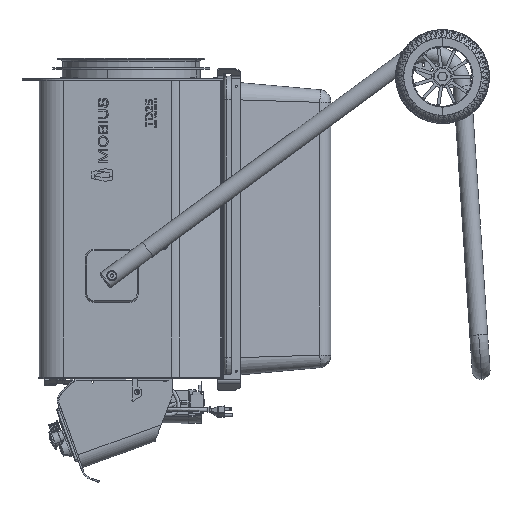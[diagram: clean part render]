
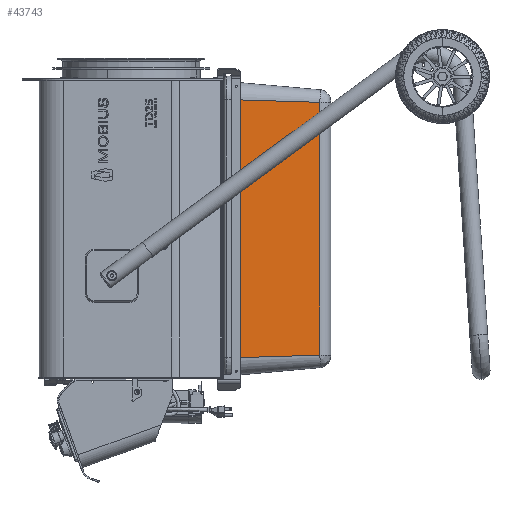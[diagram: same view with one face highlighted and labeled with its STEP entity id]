
A CAD part, left-side view. The second image highlights one B-rep face of the part: STEP entity #43743.
In plain terms, the highlighted planar face has unit normal (-0.996, -0.089, 0).
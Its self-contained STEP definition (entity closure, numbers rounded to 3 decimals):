
#3949 = AXIS2_PLACEMENT_3D ( 'NONE', #146564, #8472, #69962 ) ;
#8472 = DIRECTION ( 'NONE',  ( 0.996, 0.089, 0. ) ) ;
#9519 = VERTEX_POINT ( 'NONE', #70070 ) ;
#11668 = VERTEX_POINT ( 'NONE', #57561 ) ;
#25336 = CARTESIAN_POINT ( 'NONE',  ( -7.025, 22.07, 14.813 ) ) ;
#32062 = CARTESIAN_POINT ( 'NONE',  ( -6.332, 14.331, 14.575 ) ) ;
#39291 = VECTOR ( 'NONE', #174484, 39.37 ) ;
#40352 = EDGE_LOOP ( 'NONE', ( #141312, #106090, #50412, #64070, #137786, #110913 ) ) ;
#40801 = CARTESIAN_POINT ( 'NONE',  ( -7., 21.795, 14.825 ) ) ;
#43743 = ADVANCED_FACE ( 'NONE', ( #193950 ), #85086, .F. ) ;
#48608 = CARTESIAN_POINT ( 'NONE',  ( -6.332, 14.331, -6.702 ) ) ;
#50412 = ORIENTED_EDGE ( 'NONE', *, *, #60000, .T. ) ;
#50437 = EDGE_CURVE ( 'NONE', #127011, #181535, #178273, .T. ) ;
#57561 = CARTESIAN_POINT ( 'NONE',  ( -7.025, 22.07, -6.913 ) ) ;
#57585 = CARTESIAN_POINT ( 'NONE',  ( -7.025, 22.07, 14.82 ) ) ;
#59708 = EDGE_CURVE ( 'NONE', #9519, #188045, #84177, .T. ) ;
#60000 = EDGE_CURVE ( 'NONE', #65206, #11668, #113962, .T. ) ;
#60130 = EDGE_CURVE ( 'NONE', #9519, #65206, #67542, .T. ) ;
#64070 = ORIENTED_EDGE ( 'NONE', *, *, #187723, .T. ) ;
#65206 = VERTEX_POINT ( 'NONE', #25336 ) ;
#67542 = B_SPLINE_CURVE_WITH_KNOTS ( 'NONE', 3,
 ( #75683, #180534, #57585, #137166 ),
 .UNSPECIFIED., .F., .F.,
 ( 4, 4 ),
 ( 0., 0.001 ),
 .UNSPECIFIED. ) ;
#69962 = DIRECTION ( 'NONE',  ( 0.089, -0.996, 0. ) ) ;
#70070 = CARTESIAN_POINT ( 'NONE',  ( -7.025, 22.07, 14.833 ) ) ;
#71956 = CARTESIAN_POINT ( 'NONE',  ( -7.025, 22.07, -6.92 ) ) ;
#75683 = CARTESIAN_POINT ( 'NONE',  ( -7.025, 22.07, 14.833 ) ) ;
#84177 = LINE ( 'NONE', #40801, #138864 ) ;
#85086 = PLANE ( 'NONE',  #3949 ) ;
#98142 = VECTOR ( 'NONE', #126728, 39.37 ) ;
#100293 = DIRECTION ( 'NONE',  ( 0.089, -0.996, -0.03 ) ) ;
#106090 = ORIENTED_EDGE ( 'NONE', *, *, #60130, .T. ) ;
#109511 = B_SPLINE_CURVE_WITH_KNOTS ( 'NONE', 3,
 ( #174873, #71956, #115353, #133438 ),
 .UNSPECIFIED., .F., .F.,
 ( 4, 4 ),
 ( 0., 0.001 ),
 .UNSPECIFIED. ) ;
#110913 = ORIENTED_EDGE ( 'NONE', *, *, #117424, .T. ) ;
#113962 = LINE ( 'NONE', #173482, #39291 ) ;
#115353 = CARTESIAN_POINT ( 'NONE',  ( -7.025, 22.07, -6.926 ) ) ;
#115802 = CARTESIAN_POINT ( 'NONE',  ( -7.025, 22.07, -6.933 ) ) ;
#117424 = EDGE_CURVE ( 'NONE', #181535, #188045, #185232, .T. ) ;
#126728 = DIRECTION ( 'NONE',  ( 0., 0., 1. ) ) ;
#127011 = VERTEX_POINT ( 'NONE', #115802 ) ;
#133438 = CARTESIAN_POINT ( 'NONE',  ( -7.025, 22.07, -6.933 ) ) ;
#137166 = CARTESIAN_POINT ( 'NONE',  ( -7.025, 22.07, 14.813 ) ) ;
#137786 = ORIENTED_EDGE ( 'NONE', *, *, #50437, .T. ) ;
#138864 = VECTOR ( 'NONE', #100293, 39.37 ) ;
#141312 = ORIENTED_EDGE ( 'NONE', *, *, #59708, .F. ) ;
#146564 = CARTESIAN_POINT ( 'NONE',  ( -7., 21.793, 3.95 ) ) ;
#149023 = DIRECTION ( 'NONE',  ( 0.089, -0.996, 0.03 ) ) ;
#154410 = VECTOR ( 'NONE', #149023, 39.37 ) ;
#173482 = CARTESIAN_POINT ( 'NONE',  ( -7.025, 22.07, 3.95 ) ) ;
#173661 = CARTESIAN_POINT ( 'NONE',  ( -6.332, 14.331, 14.602 ) ) ;
#174484 = DIRECTION ( 'NONE',  ( 0., 0., -1. ) ) ;
#174873 = CARTESIAN_POINT ( 'NONE',  ( -7.025, 22.07, -6.913 ) ) ;
#178273 = LINE ( 'NONE', #194423, #154410 ) ;
#180534 = CARTESIAN_POINT ( 'NONE',  ( -7.025, 22.07, 14.826 ) ) ;
#181535 = VERTEX_POINT ( 'NONE', #48608 ) ;
#185232 = LINE ( 'NONE', #32062, #98142 ) ;
#187723 = EDGE_CURVE ( 'NONE', #11668, #127011, #109511, .T. ) ;
#188045 = VERTEX_POINT ( 'NONE', #173661 ) ;
#193950 = FACE_OUTER_BOUND ( 'NONE', #40352, .T. ) ;
#194423 = CARTESIAN_POINT ( 'NONE',  ( -7., 21.795, -6.925 ) ) ;
